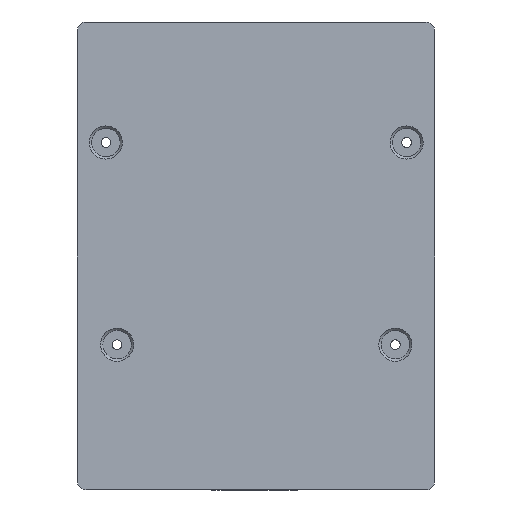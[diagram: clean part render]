
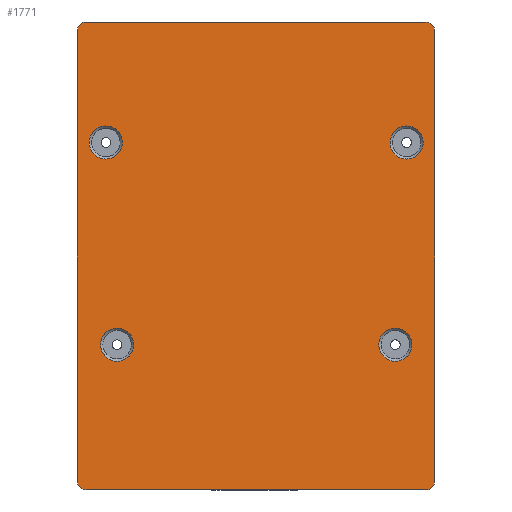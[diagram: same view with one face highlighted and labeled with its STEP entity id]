
A CAD part, front view. The second image highlights one B-rep face of the part: STEP entity #1771.
In plain terms, the highlighted planar face has unit normal (0, -0.999, 0.038).
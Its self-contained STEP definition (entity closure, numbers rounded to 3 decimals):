
#88=ELLIPSE('',#1931,2.001,2.);
#89=ELLIPSE('',#1937,2.001,2.);
#90=ELLIPSE('',#1938,2.001,2.);
#91=ELLIPSE('',#1939,2.001,2.);
#114=B_SPLINE_CURVE_WITH_KNOTS('',3,(#2987,#2988,#2989,#2990,#2991,#2992,
#2993,#2994,#2995,#2996),.UNSPECIFIED.,.T.,.F.,(4,1,1,1,1,1,1,4),(-3.142,
-2.244,-1.346,-0.449,0.449,
1.346,2.244,3.142),.UNSPECIFIED.);
#115=B_SPLINE_CURVE_WITH_KNOTS('',3,(#2998,#2999,#3000,#3001,#3002,#3003,
#3004,#3005,#3006,#3007),.UNSPECIFIED.,.T.,.F.,(4,1,1,1,1,1,1,4),(-3.142,
-2.244,-1.346,-0.449,0.449,
1.346,2.244,3.142),.UNSPECIFIED.);
#116=B_SPLINE_CURVE_WITH_KNOTS('',3,(#3009,#3010,#3011,#3012,#3013,#3014,
#3015,#3016,#3017,#3018),.UNSPECIFIED.,.T.,.F.,(4,1,1,1,1,1,1,4),(-3.142,
-2.244,-1.346,-0.449,0.449,
1.346,2.244,3.142),.UNSPECIFIED.);
#117=B_SPLINE_CURVE_WITH_KNOTS('',3,(#3020,#3021,#3022,#3023,#3024,#3025,
#3026,#3027,#3028,#3029),.UNSPECIFIED.,.T.,.F.,(4,1,1,1,1,1,1,4),(-3.142,
-2.244,-1.346,-0.449,0.449,
1.346,2.244,3.142),.UNSPECIFIED.);
#137=FACE_BOUND('',#598,.T.);
#138=FACE_BOUND('',#599,.T.);
#139=FACE_BOUND('',#600,.T.);
#140=FACE_BOUND('',#601,.T.);
#222=LINE('',#2961,#376);
#228=LINE('',#2976,#382);
#229=LINE('',#2980,#383);
#230=LINE('',#2984,#384);
#376=VECTOR('',#2276,10.);
#382=VECTOR('',#2288,10.);
#383=VECTOR('',#2291,10.);
#384=VECTOR('',#2294,10.);
#487=FACE_OUTER_BOUND('',#597,.T.);
#597=EDGE_LOOP('',(#1354,#1355,#1356,#1357,#1358,#1359,#1360,#1361));
#598=EDGE_LOOP('',(#1362));
#599=EDGE_LOOP('',(#1363));
#600=EDGE_LOOP('',(#1364));
#601=EDGE_LOOP('',(#1365));
#820=VERTEX_POINT('',#2951);
#821=VERTEX_POINT('',#2952);
#824=VERTEX_POINT('',#2960);
#830=VERTEX_POINT('',#2975);
#831=VERTEX_POINT('',#2977);
#832=VERTEX_POINT('',#2979);
#833=VERTEX_POINT('',#2981);
#834=VERTEX_POINT('',#2983);
#835=VERTEX_POINT('',#2986);
#836=VERTEX_POINT('',#2997);
#837=VERTEX_POINT('',#3008);
#838=VERTEX_POINT('',#3019);
#1019=EDGE_CURVE('',#820,#821,#88,.T.);
#1023=EDGE_CURVE('',#821,#824,#222,.T.);
#1031=EDGE_CURVE('',#820,#830,#228,.T.);
#1032=EDGE_CURVE('',#831,#830,#89,.T.);
#1033=EDGE_CURVE('',#831,#832,#229,.T.);
#1034=EDGE_CURVE('',#833,#832,#90,.T.);
#1035=EDGE_CURVE('',#834,#833,#230,.T.);
#1036=EDGE_CURVE('',#824,#834,#91,.T.);
#1037=EDGE_CURVE('',#835,#835,#114,.T.);
#1038=EDGE_CURVE('',#836,#836,#115,.T.);
#1039=EDGE_CURVE('',#837,#837,#116,.T.);
#1040=EDGE_CURVE('',#838,#838,#117,.T.);
#1354=ORIENTED_EDGE('',*,*,#1019,.F.);
#1355=ORIENTED_EDGE('',*,*,#1031,.T.);
#1356=ORIENTED_EDGE('',*,*,#1032,.F.);
#1357=ORIENTED_EDGE('',*,*,#1033,.T.);
#1358=ORIENTED_EDGE('',*,*,#1034,.F.);
#1359=ORIENTED_EDGE('',*,*,#1035,.F.);
#1360=ORIENTED_EDGE('',*,*,#1036,.F.);
#1361=ORIENTED_EDGE('',*,*,#1023,.F.);
#1362=ORIENTED_EDGE('',*,*,#1037,.F.);
#1363=ORIENTED_EDGE('',*,*,#1038,.F.);
#1364=ORIENTED_EDGE('',*,*,#1039,.F.);
#1365=ORIENTED_EDGE('',*,*,#1040,.F.);
#1706=PLANE('',#1936);
#1771=ADVANCED_FACE('',(#487,#137,#138,#139,#140),#1706,.T.);
#1931=AXIS2_PLACEMENT_3D('',#2953,#2268,#2269);
#1936=AXIS2_PLACEMENT_3D('',#2974,#2286,#2287);
#1937=AXIS2_PLACEMENT_3D('',#2978,#2289,#2290);
#1938=AXIS2_PLACEMENT_3D('',#2982,#2292,#2293);
#1939=AXIS2_PLACEMENT_3D('',#2985,#2295,#2296);
#2268=DIRECTION('center_axis',(0.,0.999,-0.038));
#2269=DIRECTION('ref_axis',(0.,-0.038,-0.999));
#2276=DIRECTION('',(-1.,0.,0.));
#2286=DIRECTION('center_axis',(0.,-0.999,0.038));
#2287=DIRECTION('ref_axis',(0.,0.038,0.999));
#2288=DIRECTION('',(0.,0.038,0.999));
#2289=DIRECTION('center_axis',(0.,0.999,-0.038));
#2290=DIRECTION('ref_axis',(0.,0.038,0.999));
#2291=DIRECTION('',(-1.,0.,0.));
#2292=DIRECTION('center_axis',(0.,0.999,-0.038));
#2293=DIRECTION('ref_axis',(0.,0.038,0.999));
#2294=DIRECTION('',(0.,0.038,0.999));
#2295=DIRECTION('center_axis',(0.,0.999,-0.038));
#2296=DIRECTION('ref_axis',(0.,-0.038,-0.999));
#2951=CARTESIAN_POINT('',(54.174,-13.066,-25.954));
#2952=CARTESIAN_POINT('',(52.174,-13.142,-27.954));
#2953=CARTESIAN_POINT('Origin',(52.174,-13.066,-25.954));
#2960=CARTESIAN_POINT('',(-24.827,-13.142,-27.954));
#2961=CARTESIAN_POINT('',(52.174,-13.142,-27.954));
#2974=CARTESIAN_POINT('Origin',(52.174,-13.025,-24.885));
#2975=CARTESIAN_POINT('',(54.174,-9.154,76.076));
#2976=CARTESIAN_POINT('',(54.174,-9.115,77.076));
#2977=CARTESIAN_POINT('',(52.174,-9.077,78.076));
#2978=CARTESIAN_POINT('Origin',(52.174,-9.154,76.076));
#2979=CARTESIAN_POINT('',(-24.827,-9.077,78.076));
#2980=CARTESIAN_POINT('',(54.174,-9.077,78.076));
#2981=CARTESIAN_POINT('',(-26.827,-9.154,76.076));
#2982=CARTESIAN_POINT('Origin',(-24.827,-9.154,76.076));
#2983=CARTESIAN_POINT('',(-26.827,-13.066,-25.954));
#2984=CARTESIAN_POINT('',(-26.827,-13.111,-27.143));
#2985=CARTESIAN_POINT('Origin',(-24.827,-13.066,-25.954));
#2986=CARTESIAN_POINT('',(-17.795,-11.737,8.71));
#2987=CARTESIAN_POINT('Ctrl Pts',(-17.795,-11.737,8.71));
#2988=CARTESIAN_POINT('Ctrl Pts',(-18.917,-11.737,8.71));
#2989=CARTESIAN_POINT('Ctrl Pts',(-21.147,-11.778,7.636));
#2990=CARTESIAN_POINT('Ctrl Pts',(-21.986,-11.917,4.004));
#2991=CARTESIAN_POINT('Ctrl Pts',(-19.656,-12.029,1.096));
#2992=CARTESIAN_POINT('Ctrl Pts',(-15.932,-12.029,1.09));
#2993=CARTESIAN_POINT('Ctrl Pts',(-13.612,-11.917,4.006));
#2994=CARTESIAN_POINT('Ctrl Pts',(-14.438,-11.778,7.637));
#2995=CARTESIAN_POINT('Ctrl Pts',(-16.673,-11.737,8.71));
#2996=CARTESIAN_POINT('Ctrl Pts',(-17.795,-11.737,8.71));
#2997=CARTESIAN_POINT('',(47.788,-9.98,54.523));
#2998=CARTESIAN_POINT('Ctrl Pts',(47.788,-9.98,54.523));
#2999=CARTESIAN_POINT('Ctrl Pts',(46.666,-9.98,54.523));
#3000=CARTESIAN_POINT('Ctrl Pts',(44.437,-10.021,53.448));
#3001=CARTESIAN_POINT('Ctrl Pts',(43.596,-10.161,49.817));
#3002=CARTESIAN_POINT('Ctrl Pts',(45.928,-10.272,46.91));
#3003=CARTESIAN_POINT('Ctrl Pts',(49.652,-10.272,46.901));
#3004=CARTESIAN_POINT('Ctrl Pts',(51.97,-10.161,49.819));
#3005=CARTESIAN_POINT('Ctrl Pts',(51.146,-10.021,53.449));
#3006=CARTESIAN_POINT('Ctrl Pts',(48.91,-9.98,54.523));
#3007=CARTESIAN_POINT('Ctrl Pts',(47.788,-9.98,54.523));
#3008=CARTESIAN_POINT('',(-20.342,-9.98,54.523));
#3009=CARTESIAN_POINT('Ctrl Pts',(-20.342,-9.98,54.523));
#3010=CARTESIAN_POINT('Ctrl Pts',(-21.464,-9.98,54.523));
#3011=CARTESIAN_POINT('Ctrl Pts',(-23.693,-10.021,53.448));
#3012=CARTESIAN_POINT('Ctrl Pts',(-24.534,-10.161,49.817));
#3013=CARTESIAN_POINT('Ctrl Pts',(-22.202,-10.272,46.91));
#3014=CARTESIAN_POINT('Ctrl Pts',(-18.478,-10.272,46.902));
#3015=CARTESIAN_POINT('Ctrl Pts',(-16.16,-10.161,49.819));
#3016=CARTESIAN_POINT('Ctrl Pts',(-16.985,-10.021,53.449));
#3017=CARTESIAN_POINT('Ctrl Pts',(-19.22,-9.98,54.523));
#3018=CARTESIAN_POINT('Ctrl Pts',(-20.342,-9.98,54.523));
#3019=CARTESIAN_POINT('',(45.241,-11.737,8.71));
#3020=CARTESIAN_POINT('Ctrl Pts',(45.241,-11.737,8.71));
#3021=CARTESIAN_POINT('Ctrl Pts',(44.119,-11.737,8.71));
#3022=CARTESIAN_POINT('Ctrl Pts',(41.89,-11.778,7.636));
#3023=CARTESIAN_POINT('Ctrl Pts',(41.05,-11.917,4.004));
#3024=CARTESIAN_POINT('Ctrl Pts',(43.381,-12.029,1.096));
#3025=CARTESIAN_POINT('Ctrl Pts',(47.105,-12.029,1.089));
#3026=CARTESIAN_POINT('Ctrl Pts',(49.424,-11.917,4.006));
#3027=CARTESIAN_POINT('Ctrl Pts',(48.598,-11.778,7.637));
#3028=CARTESIAN_POINT('Ctrl Pts',(46.363,-11.737,8.71));
#3029=CARTESIAN_POINT('Ctrl Pts',(45.241,-11.737,8.71));
